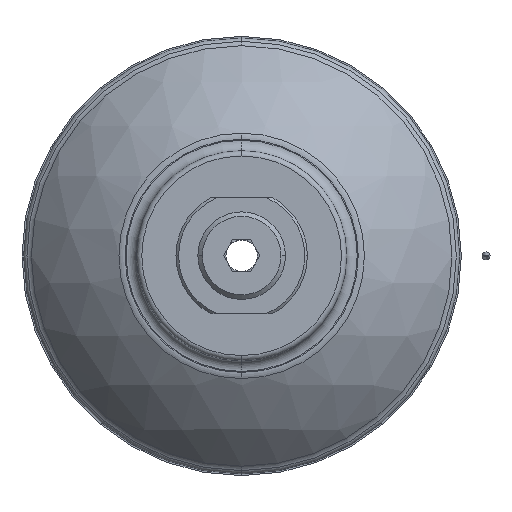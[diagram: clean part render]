
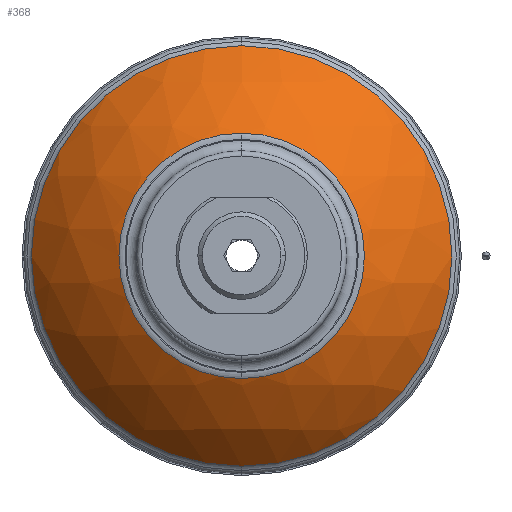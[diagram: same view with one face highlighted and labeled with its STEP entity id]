
A CAD part, top view. The second image highlights one B-rep face of the part: STEP entity #368.
In plain terms, the highlighted spherical face has radius 50 mm.
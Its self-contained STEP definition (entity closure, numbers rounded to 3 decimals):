
#368=ADVANCED_FACE('',(#776,#777),#778,.T.);
#776=FACE_OUTER_BOUND('',#1222,.T.);
#777=FACE_BOUND('',#1223,.T.);
#778=SPHERICAL_SURFACE('',#1224,50.);
#1222=EDGE_LOOP('',(#2224,#2225,#2226));
#1223=EDGE_LOOP('',(#2227,#2228));
#1224=AXIS2_PLACEMENT_3D('',#2229,#2230,#2231);
#2224=ORIENTED_EDGE('',*,*,#2977,.F.);
#2225=ORIENTED_EDGE('',*,*,#2978,.F.);
#2226=ORIENTED_EDGE('',*,*,#2770,.F.);
#2227=ORIENTED_EDGE('',*,*,#2975,.T.);
#2228=ORIENTED_EDGE('',*,*,#2777,.T.);
#2229=CARTESIAN_POINT('',(0.0,0.,-27.));
#2230=DIRECTION('',(0.0,-1.0,0.));
#2231=DIRECTION('',(1.0,0.0,0.0));
#2770=EDGE_CURVE('',#3363,#3365,#3366,.T.);
#2777=EDGE_CURVE('',#3371,#3375,#3377,.T.);
#2975=EDGE_CURVE('',#3375,#3371,#3658,.T.);
#2977=EDGE_CURVE('',#3660,#3363,#3661,.T.);
#2978=EDGE_CURVE('',#3365,#3660,#3662,.T.);
#3363=VERTEX_POINT('',#4080);
#3365=VERTEX_POINT('',#4082);
#3366=CIRCLE('',#4083,40.016);
#3371=VERTEX_POINT('',#4088);
#3375=VERTEX_POINT('',#4092);
#3377=CIRCLE('',#4094,23.354);
#3658=CIRCLE('',#4471,23.354);
#3660=VERTEX_POINT('',#4473);
#3661=CIRCLE('',#4474,40.016);
#3662=CIRCLE('',#4475,40.016);
#4080=CARTESIAN_POINT('',(0.,-40.016,2.979));
#4082=CARTESIAN_POINT('',(0.,40.016,2.979));
#4083=AXIS2_PLACEMENT_3D('',#4953,#4954,#4955);
#4088=CARTESIAN_POINT('',(0.,23.354,17.211));
#4092=CARTESIAN_POINT('',(0.,-23.354,17.211));
#4094=AXIS2_PLACEMENT_3D('',#4971,#4972,#4973);
#4471=AXIS2_PLACEMENT_3D('',#5253,#5254,#5255);
#4473=CARTESIAN_POINT('',(40.016,0.,2.979));
#4474=AXIS2_PLACEMENT_3D('',#5256,#5257,#5258);
#4475=AXIS2_PLACEMENT_3D('',#5259,#5260,#5261);
#4953=CARTESIAN_POINT('',(0.0,0.,2.979));
#4954=DIRECTION('',(0.0,0.,-1.0));
#4955=DIRECTION('',(1.0,0.0,0.0));
#4971=CARTESIAN_POINT('',(0.0,0.,17.211));
#4972=DIRECTION('',(0.0,0.,-1.0));
#4973=DIRECTION('',(1.0,0.0,0.0));
#5253=CARTESIAN_POINT('',(0.0,0.,17.211));
#5254=DIRECTION('',(0.0,0.,-1.0));
#5255=DIRECTION('',(1.0,0.0,0.0));
#5256=CARTESIAN_POINT('',(0.0,0.,2.979));
#5257=DIRECTION('',(0.0,0.,-1.0));
#5258=DIRECTION('',(1.0,0.0,0.0));
#5259=CARTESIAN_POINT('',(0.0,0.,2.979));
#5260=DIRECTION('',(0.0,0.,-1.0));
#5261=DIRECTION('',(1.0,0.0,0.0));
